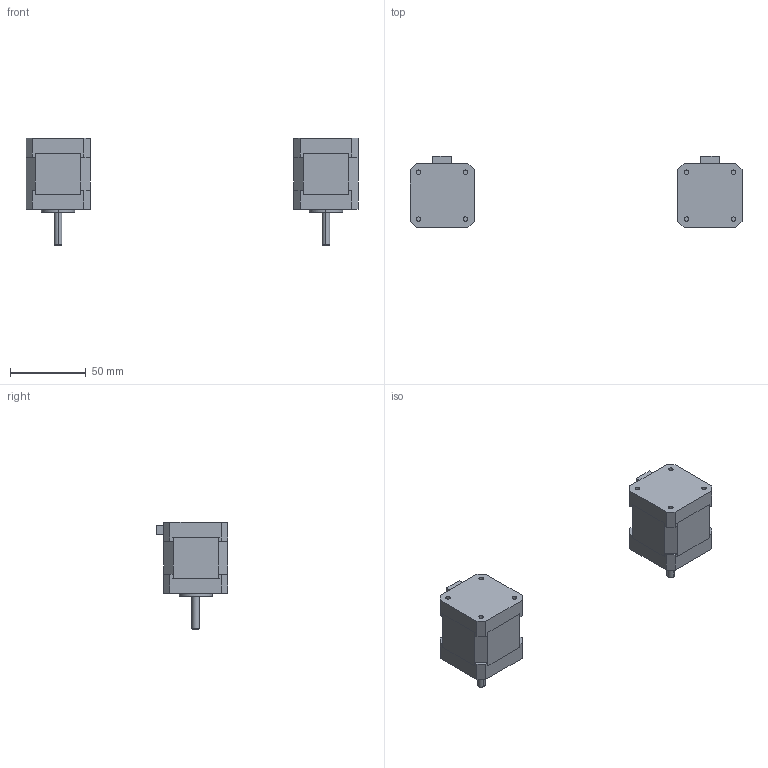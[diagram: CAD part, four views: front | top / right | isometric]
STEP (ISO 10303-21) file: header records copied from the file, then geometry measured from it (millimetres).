
FILE_DESCRIPTION(/* description */ (''),/* implementation_level */ '2;1');
FILE_NAME(/* name */ '240803-DIYUTM-NEMA17',/* time_stamp */ '2024-08-03T10:09:18+02:00',/* author */ (''),/* organization */ (''),/* preprocessor_version */ 'ST-DEVELOPER v16.5',/* originating_system */ 'Rhino 7.37',/* authorisation */ '');
FILE_SCHEMA (('CONFIG_CONTROL_DESIGN'));
Length unit declared in the file: millimetre
Products named in the file (1): Document
Bounding box: 219.33 x 47.3 x 71 mm (x, y, z)
Volume: 164592.3 mm3; surface area: 40658.1 mm2
Topology: 10 solids, 10 shells, 210 faces, 476 edges, 316 vertices
Faces by surface type: plane 146, cylinder 56, bspline 8
Entity records: 6723 total; most frequent: CARTESIAN_POINT 1988, ORIENTED_EDGE 952, EDGE_CURVE 476, B_SPLINE_CURVE_WITH_KNOTS 352, VERTEX_POINT 316, EDGE_LOOP 240, ADVANCED_FACE 210, FACE_OUTER_BOUND 210
